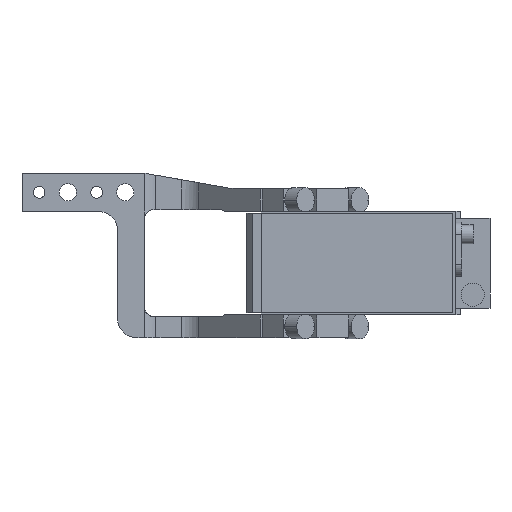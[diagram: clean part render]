
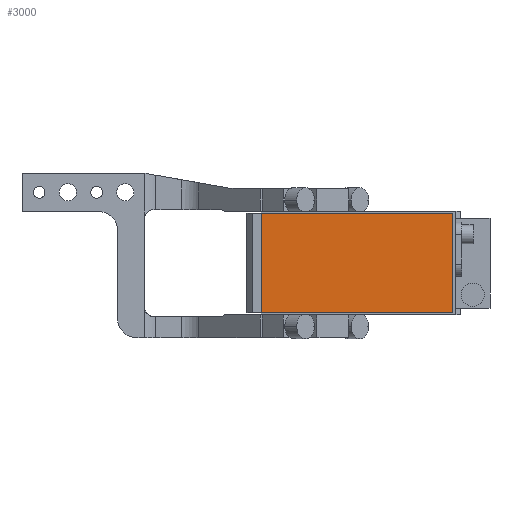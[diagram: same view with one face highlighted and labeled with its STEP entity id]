
A CAD part, front view. The second image highlights one B-rep face of the part: STEP entity #3000.
In plain terms, the highlighted planar face has unit normal (0, -1, 0).
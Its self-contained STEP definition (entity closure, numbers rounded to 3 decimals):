
#18 = EDGE_CURVE ( 'NONE', #10035, #6621, #10142, .T. ) ;
#591 = VECTOR ( 'NONE', #7950, 1000. ) ;
#699 = CARTESIAN_POINT ( 'NONE',  ( 0., -286.5, 0. ) ) ;
#764 = CARTESIAN_POINT ( 'NONE',  ( -19., -286.5, -26. ) ) ;
#1308 = VERTEX_POINT ( 'NONE', #5988 ) ;
#1959 = CARTESIAN_POINT ( 'NONE',  ( -19., -286.5, 26. ) ) ;
#2289 = VECTOR ( 'NONE', #7959, 1000. ) ;
#2772 = DIRECTION ( 'NONE',  ( 0., -1., 0. ) ) ;
#2892 = VECTOR ( 'NONE', #3101, 1000. ) ;
#2906 = CARTESIAN_POINT ( 'NONE',  ( -19., -286.5, 26. ) ) ;
#3000 = ADVANCED_FACE ( 'NONE', ( #12509 ), #9243, .T. ) ;
#3101 = DIRECTION ( 'NONE',  ( 0., 0., 1. ) ) ;
#3413 = EDGE_LOOP ( 'NONE', ( #5654, #7871, #5372, #4485 ) ) ;
#3876 = DIRECTION ( 'NONE',  ( 0., 0., -1. ) ) ;
#4485 = ORIENTED_EDGE ( 'NONE', *, *, #11369, .T. ) ;
#4859 = LINE ( 'NONE', #2906, #2289 ) ;
#4867 = EDGE_CURVE ( 'NONE', #6621, #1308, #12355, .T. ) ;
#5372 = ORIENTED_EDGE ( 'NONE', *, *, #13426, .T. ) ;
#5654 = ORIENTED_EDGE ( 'NONE', *, *, #18, .T. ) ;
#5988 = CARTESIAN_POINT ( 'NONE',  ( 81., -286.5, -26. ) ) ;
#6621 = VERTEX_POINT ( 'NONE', #764 ) ;
#7871 = ORIENTED_EDGE ( 'NONE', *, *, #4867, .T. ) ;
#7950 = DIRECTION ( 'NONE',  ( 1., 0., 0. ) ) ;
#7959 = DIRECTION ( 'NONE',  ( -1., 0., 0. ) ) ;
#8193 = CARTESIAN_POINT ( 'NONE',  ( 81., -286.5, 26. ) ) ;
#9243 = PLANE ( 'NONE',  #10580 ) ;
#9375 = DIRECTION ( 'NONE',  ( 0., 0., -1. ) ) ;
#9423 = VERTEX_POINT ( 'NONE', #8193 ) ;
#10035 = VERTEX_POINT ( 'NONE', #1959 ) ;
#10142 = LINE ( 'NONE', #13555, #11911 ) ;
#10580 = AXIS2_PLACEMENT_3D ( 'NONE', #699, #2772, #9375 ) ;
#11071 = CARTESIAN_POINT ( 'NONE',  ( -19., -286.5, -26. ) ) ;
#11369 = EDGE_CURVE ( 'NONE', #9423, #10035, #4859, .T. ) ;
#11640 = LINE ( 'NONE', #13827, #2892 ) ;
#11911 = VECTOR ( 'NONE', #3876, 1000. ) ;
#12355 = LINE ( 'NONE', #11071, #591 ) ;
#12509 = FACE_OUTER_BOUND ( 'NONE', #3413, .T. ) ;
#13426 = EDGE_CURVE ( 'NONE', #1308, #9423, #11640, .T. ) ;
#13555 = CARTESIAN_POINT ( 'NONE',  ( -19., -286.5, 26. ) ) ;
#13827 = CARTESIAN_POINT ( 'NONE',  ( 81., -286.5, 26. ) ) ;
